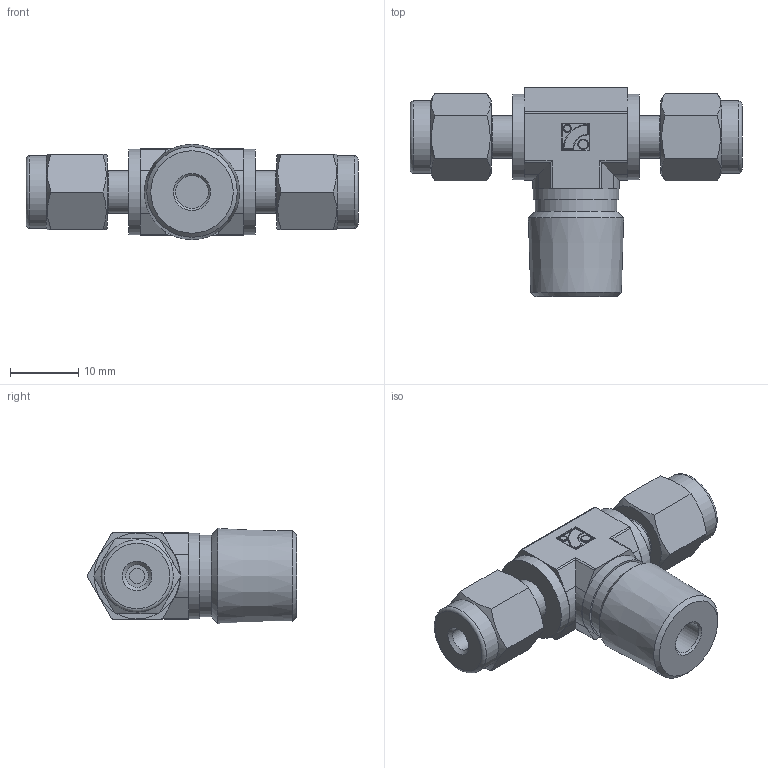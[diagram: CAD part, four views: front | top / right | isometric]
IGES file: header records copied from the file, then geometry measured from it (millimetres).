
Global section: file name: No Iges File Name specified; native system: Autodesk Inventor 2012; preprocessor: AutoDesk Inventor Iges Exporter R2012; author: 硅己绕,, ; organization: 11; date: 20150815.155116; units: millimetre
Bounding box: 48.72 x 30.69 x 13.97 mm (x, y, z)
Volume: 7102 mm3; surface area: 3637.4 mm2
Topology: 1 solids, 1 shells, 140 faces, 301 edges, 177 vertices
Faces by surface type: plane 50, cylinder 36, revolution 31, torus 10, cone 9, sphere 4
Full cylindrical faces by diameter (mm): 1.08 x1, 1.44 x1, 6.28 x2, 10.6 x2, 12 x1, 12.6 x3
